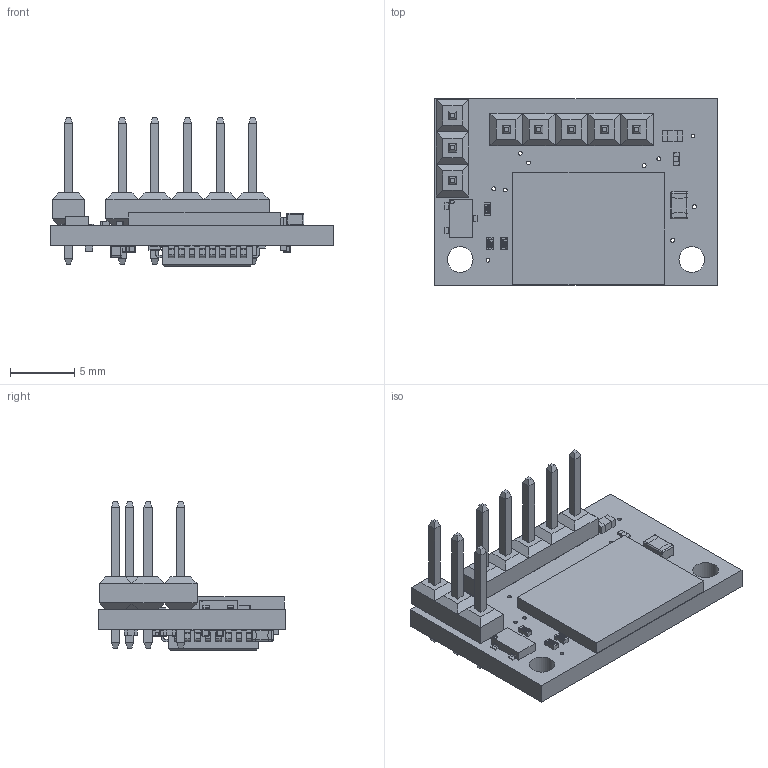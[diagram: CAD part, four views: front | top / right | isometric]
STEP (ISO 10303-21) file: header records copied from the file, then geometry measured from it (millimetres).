
FILE_DESCRIPTION(/* description */ (''),/* implementation_level */ '2;1');
FILE_NAME(/* name */ 'C:/Users/priba/Documents/Temp/Export/mrm-therm-b-an v1.step',/* time_stamp */ '2019-09-09T00:19:53+02:00',/* author */ (''),/* organization */ (''),/* preprocessor_version */ 'ST-DEVELOPER v18',/* originating_system */ 'Autodesk Translation Framework v8.6.0.1094',/* authorisation */ '');
FILE_SCHEMA (('AUTOMOTIVE_DESIGN { 1 0 10303 214 3 1 1 }'));
Length unit declared in the file: millimetre
Products named in the file (19): mrm-therm-b-an; PCB Component; Board; 10 nF; 10 uF; 10 kOhm; PANASONIC_AMG88XX; FIDUCIAL1X2; STM32F051K8T6; 4.7 uF; 1X05; 1X03; TOSHIBA_SSM3J338R,LFSOT23; TI_ESD321DPYR; term1; term2; body; CHIPLED_0402; 1.5 kOhm
Assembly tree (29 placements, depth 4):
  mrm-therm-b-an
    PCB Component
      Board
      10 nF  x6
      10 uF
      10 kOhm  x5
      PANASONIC_AMG88XX
      FIDUCIAL1X2  x2
      STM32F051K8T6
      4.7 uF
      1X05
      1X03
      TOSHIBA_SSM3J338R,LFSOT23
      TI_ESD321DPYR  x2
        term1
        term2
        body
      CHIPLED_0402
      1.5 kOhm
Bounding box: 22 x 14.5 x 11.55 mm (x, y, z)
Volume: 814.3 mm3; surface area: 1724.6 mm2
Topology: 38 solids, 38 shells, 1795 faces, 4831 edges, 3113 vertices
Faces by surface type: plane 1031, cylinder 564, sphere 168, bspline 32
Full cylindrical faces by diameter (mm): 0.3 x21, 1.016 x8, 2 x2
Entity records: 38469 total; most frequent: CARTESIAN_POINT 8563, ORIENTED_EDGE 5942, DIRECTION 5686, EDGE_CURVE 2971, LINE 2044, VECTOR 2044, VERTEX_POINT 1909, AXIS2_PLACEMENT_3D 1821
